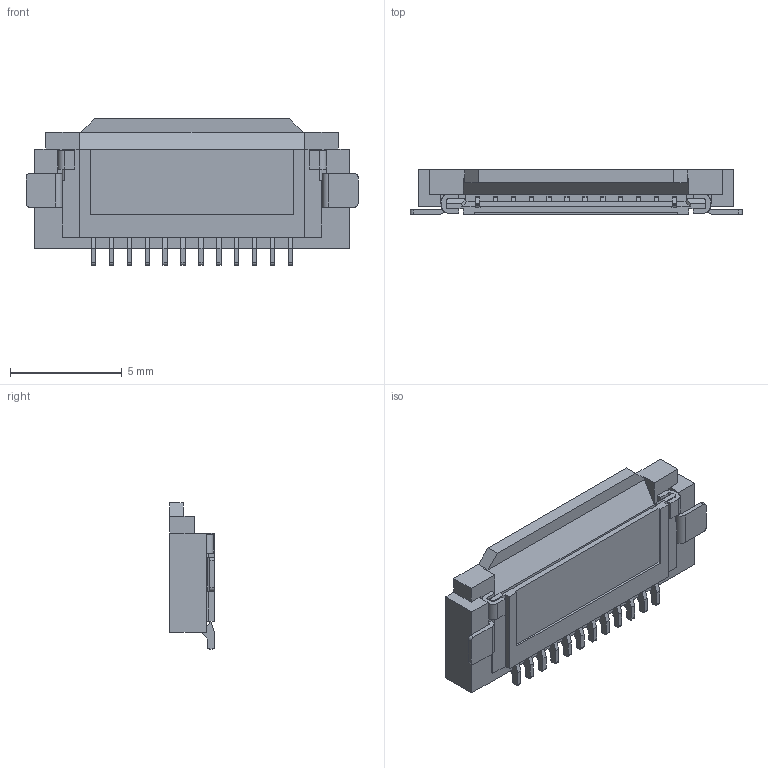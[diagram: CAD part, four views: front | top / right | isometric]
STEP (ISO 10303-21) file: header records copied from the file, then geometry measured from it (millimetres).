
FILE_DESCRIPTION((''),'2;1');
FILE_NAME('S-50519-01201-001','2011-07-01T',('12114032'),(''),'PRO/ENGINEER BY PARAMETRIC TECHNOLOGY CORPORATION, 2009360','PRO/ENGINEER BY PARAMETRIC TECHNOLOGY CORPORATION, 2009360','');
FILE_SCHEMA(('CONFIG_CONTROL_DESIGN'));
Length unit declared in the file: millimetre
Products named in the file (1): S-50519-01201-001
Bounding box: 14.87 x 2 x 6.55 mm (x, y, z)
Volume: 113.8 mm3; surface area: 341.5 mm2
Topology: 1 solids, 1 shells, 419 faces, 1232 edges, 810 vertices
Faces by surface type: plane 323, cylinder 96
Entity records: 13902 total; most frequent: CARTESIAN_POINT 2499, ORIENTED_EDGE 2464, DIRECTION 2252, EDGE_CURVE 1232, VECTOR 1030, LINE 1030, VERTEX_POINT 810, AXIS2_PLACEMENT_3D 611
